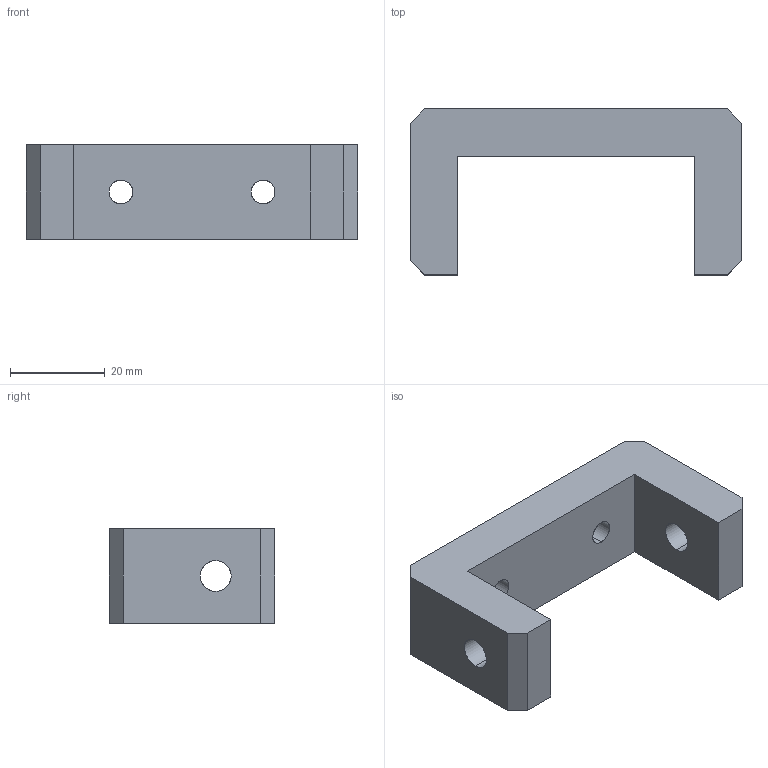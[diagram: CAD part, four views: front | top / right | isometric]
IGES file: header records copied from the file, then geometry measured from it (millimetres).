
Start section: SolidWorks IGES file using analytic representation for surfaces
Global section: file name: C:\Documents and Settings\CAD53\デスクトップ\IGES\N01911-402-1.IGS; native system: SolidWorks 2005 by SolidWorks Corporation; preprocessor: SolidWorks 2005 by SolidWorks Corporation; author: CAD53; date: 070530.090107; units: millimetre
Bounding box: 70 x 35 x 20 mm (x, y, z)
Surface area: 7934.7 mm2 (no closed solid volume)
Topology: 0 solids, 0 shells, 22 faces, 360 edges, 360 vertices
Faces by surface type: bspline 14, revolution 8
